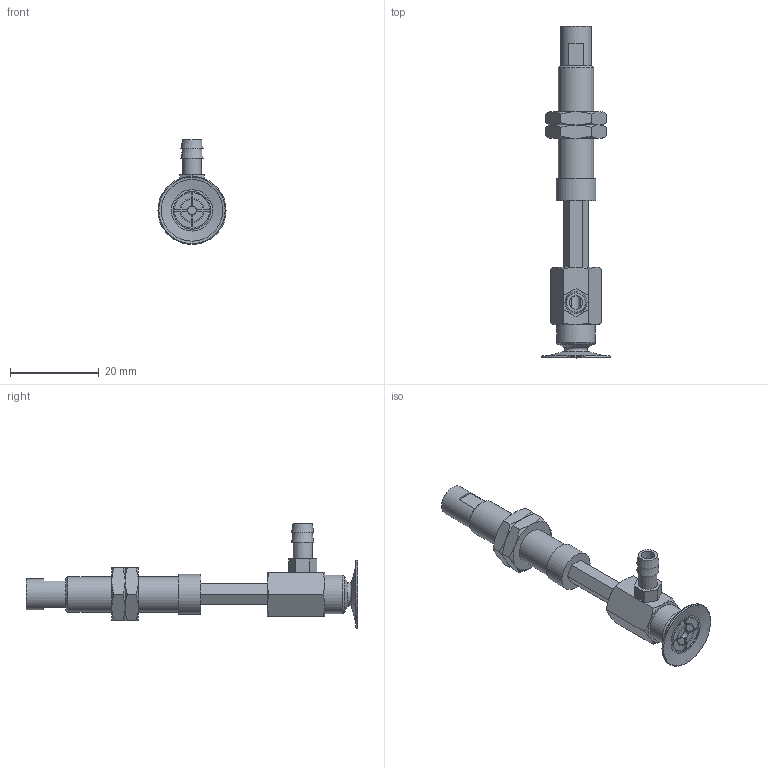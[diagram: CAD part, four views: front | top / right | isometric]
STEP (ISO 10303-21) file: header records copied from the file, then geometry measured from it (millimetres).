
FILE_DESCRIPTION(('STEP AP203'),'1');
FILE_NAME('-T.stp','2025-03-13T03:18:39',(' '),(' '),'Spatial InterOp 3D',' ',' ');
FILE_SCHEMA(('CONFIG_CONTROL_DESIGN'));
Length unit declared in the file: millimetre
Products named in the file (7): BNABPAYH-15B-15-※-T; NAPATH-10A-15--M; NAPATH-10A-15--F; Nut-10A-S; CONNECTOR-10A-15-PA; CONNECTOR-10A-3-T-PA; BPAG-15B-※
Assembly tree (7 placements, depth 2):
  BNABPAYH-15B-15-※-T
    NAPATH-10A-15--M
    NAPATH-10A-15--F
    Nut-10A-S  x2
    CONNECTOR-10A-15-PA
    CONNECTOR-10A-3-T-PA
    BPAG-15B-※
Bounding box: 15.4 x 75 x 23.7 mm (x, y, z)
Volume: 4133.6 mm3; surface area: 5490.5 mm2
Topology: 7 solids, 7 shells, 199 faces, 446 edges, 274 vertices
Faces by surface type: plane 95, cone 63, cylinder 31, torus 10
Full cylindrical faces by diameter (mm): 2 x2, 3 x1, 4 x2, 4.134 x2, 4.3 x1, 5 x2, 6 x2, 7 x1, 7.188 x2, 8 x1, 8.5 x1, 8.7 x1, 9 x1
Entity records: 5210 total; most frequent: CARTESIAN_POINT 1189, DIRECTION 762, ORIENTED_EDGE 686, EDGE_CURVE 343, AXIS2_PLACEMENT_3D 304, EDGE_LOOP 244, VERTEX_POINT 235, FACE_OUTER_BOUND 204
